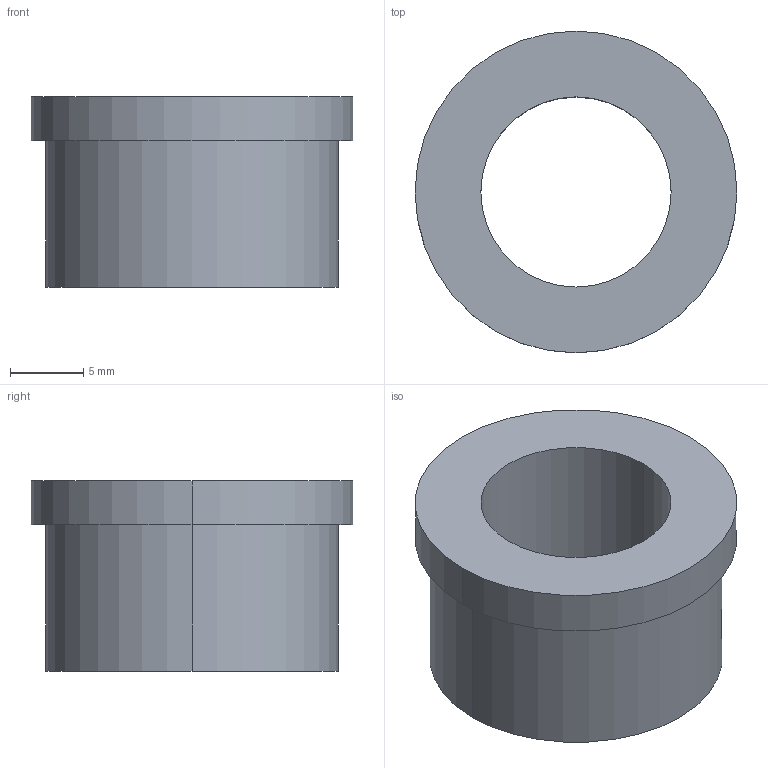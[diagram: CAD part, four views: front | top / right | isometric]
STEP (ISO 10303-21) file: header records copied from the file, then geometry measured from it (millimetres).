
FILE_DESCRIPTION(/* description */ (''),/* implementation_level */ '2;1');
FILE_NAME(/* name */ '3d_tghz13-13_00348_r00.stp',/* time_stamp */ '2011-01-10T14:09:01+09:00',/* author */ ('MISUMI'),/* organization */ (''),/* preprocessor_version */ 'ST-DEVELOPER v11',/* originating_system */ 'UGS - NX 5.0',/* authorisation */ '');
FILE_SCHEMA (('CONFIG_CONTROL_DESIGN'));
Length unit declared in the file: millimetre
Products named in the file (1): 3d_tghz13-13_00348_r00
Bounding box: 22 x 22 x 13 mm (x, y, z)
Volume: 2556.5 mm3; surface area: 1861.4 mm2
Topology: 1 solids, 1 shells, 9 faces, 18 edges, 12 vertices
Faces by surface type: cylinder 6, plane 3
Entity records: 334 total; most frequent: DIRECTION 50, CARTESIAN_POINT 40, ORIENTED_EDGE 36, AXIS2_PLACEMENT_3D 22, EDGE_CURVE 18, EDGE_LOOP 12, CIRCLE 12, VERTEX_POINT 12
